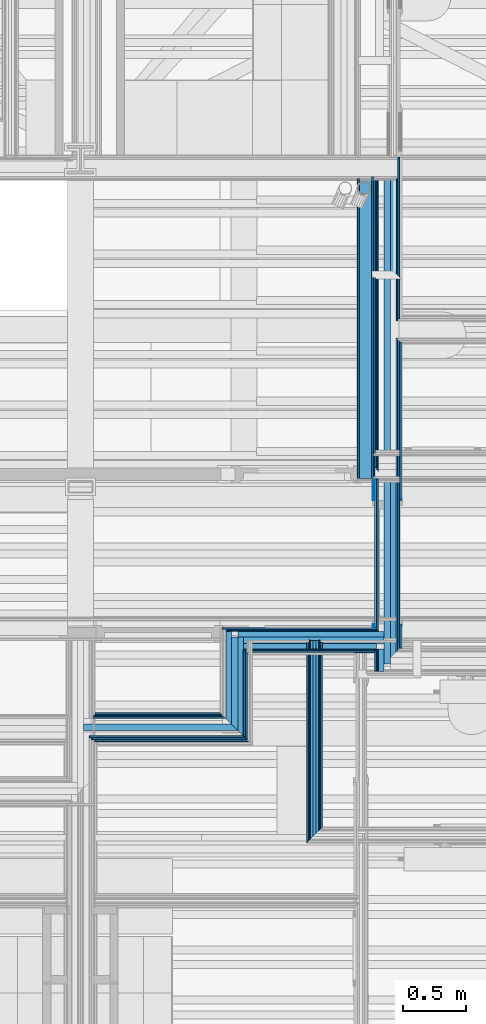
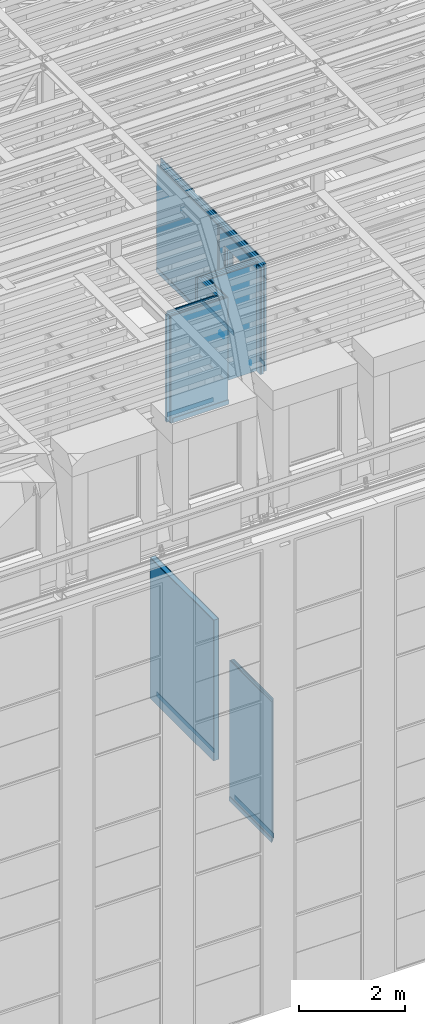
# One storey, part 36 of 183: 46 building element parts, 1 opening, 6 elements without a shape of their own.
"""IFC2X3 building model written with IfcOpenShell, lengths in metres."""

from ifc_helpers import new_model, entity, si_unit, converted_unit, derived_unit, money_unit, direction, frame, frame_2d, origin_with_axes, place, context, subcontext, project, spatial, polyline, rectangle, outline, extrude, material, type_object, element, aggregate, save


model = new_model("IFC2X3")

# Units and contexts
model_context = context("Model", 3, precision=1e-05, world=origin_with_axes(), true_north=direction((0.0, 1.0)))
body_context = subcontext(model_context, "Body", "Model", "MODEL_VIEW", scale=1.0)
ifc_project = project(units=[si_unit("LENGTHUNIT", "METRE"), si_unit("AREAUNIT", "SQUARE_METRE"), si_unit("VOLUMEUNIT", "CUBIC_METRE"), si_unit("ABSORBEDDOSEUNIT", "GRAY"), si_unit("AMOUNTOFSUBSTANCEUNIT", "MOLE"), si_unit("DOSEEQUIVALENTUNIT", "SIEVERT"), si_unit("ELECTRICCAPACITANCEUNIT", "FARAD"), si_unit("ELECTRICCHARGEUNIT", "COULOMB"), si_unit("ELECTRICCONDUCTANCEUNIT", "SIEMENS"), si_unit("ELECTRICCURRENTUNIT", "AMPERE"), si_unit("ELECTRICRESISTANCEUNIT", "OHM"), si_unit("ELECTRICVOLTAGEUNIT", "VOLT"), si_unit("ENERGYUNIT", "JOULE"), si_unit("FORCEUNIT", "NEWTON"), si_unit("FREQUENCYUNIT", "HERTZ"), si_unit("ILLUMINANCEUNIT", "LUX"), si_unit("INDUCTANCEUNIT", "HENRY"), si_unit("LUMINOUSFLUXUNIT", "LUMEN"), si_unit("LUMINOUSINTENSITYUNIT", "CANDELA"), si_unit("MAGNETICFLUXDENSITYUNIT", "TESLA"), si_unit("MAGNETICFLUXUNIT", "WEBER"), si_unit("MASSUNIT", "GRAM"), converted_unit("PLANEANGLEUNIT", "degree", entity("IfcReal", 0.0174532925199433), si_unit("PLANEANGLEUNIT", "RADIAN"), dimensions=[0, 0, 0, 0, 0, 0, 0]), si_unit("POWERUNIT", "WATT"), si_unit("PRESSUREUNIT", "PASCAL"), si_unit("RADIOACTIVITYUNIT", "BECQUEREL"), si_unit("SOLIDANGLEUNIT", "STERADIAN"), si_unit("THERMODYNAMICTEMPERATUREUNIT", "KELVIN"), si_unit("TIMEUNIT", "SECOND"), derived_unit("ACCELERATIONUNIT", [(si_unit("LENGTHUNIT", "METRE"), 1), (si_unit("TIMEUNIT", "SECOND"), -2)]), derived_unit("ANGULARVELOCITYUNIT", [(converted_unit("PLANEANGLEUNIT", "degree", entity("IfcReal", 0.0174532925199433), si_unit("PLANEANGLEUNIT", "RADIAN"), dimensions=[0, 0, 0, 0, 0, 0, 0]), 1), (si_unit("TIMEUNIT", "SECOND"), -1)]), derived_unit("CURVATUREUNIT", [(converted_unit("PLANEANGLEUNIT", "degree", entity("IfcReal", 0.0174532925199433), si_unit("PLANEANGLEUNIT", "RADIAN"), dimensions=[0, 0, 0, 0, 0, 0, 0]), 1), (si_unit("LENGTHUNIT", "METRE"), -1)]), derived_unit("DYNAMICVISCOSITYUNIT", [(si_unit("PRESSUREUNIT", "PASCAL"), 1), (si_unit("TIMEUNIT", "SECOND"), 1)]), derived_unit("HEATFLUXDENSITYUNIT", [(si_unit("POWERUNIT", "WATT"), 1), (si_unit("LENGTHUNIT", "METRE"), -2)]), derived_unit("HEATINGVALUEUNIT", [(si_unit("ENERGYUNIT", "JOULE"), 1), (si_unit("MASSUNIT", "GRAM"), -1)]), derived_unit("INTEGERCOUNTRATEUNIT", [(si_unit("TIMEUNIT", "SECOND"), -1)]), derived_unit("IONCONCENTRATIONUNIT", [(si_unit("MASSUNIT", "GRAM"), 1), (si_unit("VOLUMEUNIT", "CUBIC_METRE"), -1)]), derived_unit("ISOTHERMALMOISTURECAPACITYUNIT", [(si_unit("VOLUMEUNIT", "CUBIC_METRE"), 1), (si_unit("MASSUNIT", "GRAM"), -1)]), derived_unit("KINEMATICVISCOSITYUNIT", [(si_unit("AREAUNIT", "SQUARE_METRE"), 1), (si_unit("TIMEUNIT", "SECOND"), -1)]), derived_unit("LINEARFORCEUNIT", [(si_unit("FORCEUNIT", "NEWTON"), 1), (si_unit("LENGTHUNIT", "METRE"), -1)]), derived_unit("LINEARMOMENTUNIT", [(si_unit("FORCEUNIT", "NEWTON"), 1), (si_unit("LENGTHUNIT", "METRE"), -1)]), derived_unit("LINEARSTIFFNESSUNIT", [(si_unit("FORCEUNIT", "NEWTON"), 1), (si_unit("LENGTHUNIT", "METRE"), -1)]), derived_unit("LINEARVELOCITYUNIT", [(si_unit("LENGTHUNIT", "METRE"), 1), (si_unit("TIMEUNIT", "SECOND"), -1)]), derived_unit("LUMINOUSINTENSITYDISTRIBUTIONUNIT", [(si_unit("LUMINOUSINTENSITYUNIT", "CANDELA"), 1), (si_unit("LUMINOUSFLUXUNIT", "LUMEN"), -1)]), derived_unit("MASSDENSITYUNIT", [(si_unit("MASSUNIT", "GRAM"), 1), (si_unit("VOLUMEUNIT", "CUBIC_METRE"), -1)]), derived_unit("MASSFLOWRATEUNIT", [(si_unit("MASSUNIT", "GRAM"), 1), (si_unit("TIMEUNIT", "SECOND"), -1)]), derived_unit("MASSPERLENGTHUNIT", [(si_unit("MASSUNIT", "GRAM"), 1), (si_unit("LENGTHUNIT", "METRE"), -1)]), derived_unit("MODULUSOFELASTICITYUNIT", [(si_unit("FORCEUNIT", "NEWTON"), 1), (si_unit("AREAUNIT", "SQUARE_METRE"), -1)]), derived_unit("MODULUSOFLINEARSUBGRADEREACTIONUNIT", [(si_unit("FORCEUNIT", "NEWTON"), 1), (si_unit("LENGTHUNIT", "METRE"), -2)]), derived_unit("MODULUSOFROTATIONALSUBGRADEREACTIONUNIT", [(si_unit("FORCEUNIT", "NEWTON"), 1), (si_unit("LENGTHUNIT", "METRE"), 1)]), derived_unit("MODULUSOFSUBGRADEREACTIONUNIT", [(si_unit("FORCEUNIT", "NEWTON"), 1), (si_unit("VOLUMEUNIT", "CUBIC_METRE"), -1)]), derived_unit("MOISTUREDIFFUSIVITYUNIT", [(si_unit("VOLUMEUNIT", "CUBIC_METRE"), 1), (si_unit("TIMEUNIT", "SECOND"), -1)]), derived_unit("MOLECULARWEIGHTUNIT", [(si_unit("MASSUNIT", "GRAM"), 1), (si_unit("AMOUNTOFSUBSTANCEUNIT", "MOLE"), -1)]), derived_unit("PLANARFORCEUNIT", [(si_unit("FORCEUNIT", "NEWTON"), 1), (si_unit("LENGTHUNIT", "METRE"), -2)]), derived_unit("ROTATIONALFREQUENCYUNIT", [(si_unit("TIMEUNIT", "SECOND"), -1)]), derived_unit("ROTATIONALMASSUNIT", [(si_unit("MASSUNIT", "GRAM"), 1), (si_unit("LENGTHUNIT", "METRE"), 2)]), derived_unit("ROTATIONALSTIFFNESSUNIT", [(si_unit("FORCEUNIT", "NEWTON"), 1), (si_unit("LENGTHUNIT", "METRE"), 1), (converted_unit("PLANEANGLEUNIT", "degree", entity("IfcReal", 0.0174532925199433), si_unit("PLANEANGLEUNIT", "RADIAN"), dimensions=[0, 0, 0, 0, 0, 0, 0]), -1)]), derived_unit("SECTIONAREAINTEGRALUNIT", [(si_unit("LENGTHUNIT", "METRE"), 5)]), derived_unit("SECTIONMODULUSUNIT", [(si_unit("LENGTHUNIT", "METRE"), 3)]), derived_unit("SHEARMODULUSUNIT", [(si_unit("FORCEUNIT", "NEWTON"), 1), (si_unit("AREAUNIT", "SQUARE_METRE"), -1)]), derived_unit("SOUNDPOWERUNIT", [(si_unit("ENERGYUNIT", "JOULE"), 1), (si_unit("TIMEUNIT", "SECOND"), -1)]), derived_unit("SPECIFICHEATCAPACITYUNIT", [(si_unit("FORCEUNIT", "NEWTON"), 1), (si_unit("MASSUNIT", "GRAM"), -1), (si_unit("THERMODYNAMICTEMPERATUREUNIT", "KELVIN"), -1)]), derived_unit("TEMPERATUREGRADIENTUNIT", [(si_unit("THERMODYNAMICTEMPERATUREUNIT", "KELVIN"), 1), (si_unit("LENGTHUNIT", "METRE"), -1)]), derived_unit("THERMALADMITTANCEUNIT", [(si_unit("POWERUNIT", "WATT"), 1), (si_unit("AREAUNIT", "SQUARE_METRE"), -1), (si_unit("THERMODYNAMICTEMPERATUREUNIT", "KELVIN"), -1)]), derived_unit("THERMALCONDUCTANCEUNIT", [(si_unit("POWERUNIT", "WATT"), 1), (si_unit("LENGTHUNIT", "METRE"), -1), (si_unit("THERMODYNAMICTEMPERATUREUNIT", "KELVIN"), -1)]), derived_unit("THERMALEXPANSIONCOEFFICIENTUNIT", [(si_unit("THERMODYNAMICTEMPERATUREUNIT", "KELVIN"), -1)]), derived_unit("THERMALRESISTANCEUNIT", [(si_unit("AREAUNIT", "SQUARE_METRE"), 1), (si_unit("POWERUNIT", "WATT"), -1)]), derived_unit("THERMALTRANSMITTANCEUNIT", [(si_unit("POWERUNIT", "WATT"), 1), (si_unit("AREAUNIT", "SQUARE_METRE"), -1), (si_unit("THERMODYNAMICTEMPERATUREUNIT", "KELVIN"), -1)]), derived_unit("TORQUEUNIT", [(si_unit("FORCEUNIT", "NEWTON"), 1), (si_unit("LENGTHUNIT", "METRE"), 1)]), derived_unit("VAPORPERMEABILITYUNIT", [(si_unit("MASSUNIT", "GRAM"), 1), (si_unit("TIMEUNIT", "SECOND"), -1)]), derived_unit("VOLUMETRICFLOWRATEUNIT", [(si_unit("VOLUMEUNIT", "CUBIC_METRE"), 1), (si_unit("TIMEUNIT", "SECOND"), -1)]), derived_unit("WARPINGCONSTANTUNIT", [(si_unit("LENGTHUNIT", "METRE"), 6)]), derived_unit("WARPINGMOMENTUNIT", [(si_unit("FORCEUNIT", "NEWTON"), 1), (si_unit("LENGTHUNIT", "METRE"), 2)]), money_unit("GBP")], contexts=[model_context])

# Site, building, storey
site_placement = place(None, origin_with_axes())
site = spatial("IfcSite", under=ifc_project, at=site_placement, Name="Site", CompositionType="ELEMENT")
building_placement = place(site_placement, origin_with_axes())
building = spatial("IfcBuilding", under=site, at=building_placement, Name="Building01", CompositionType="ELEMENT")
storey_placement = place(building_placement, frame((0.0, 0.0, 5.15), z_axis=(0.0, 0.0, 1.0), x_axis=(1.0, 0.0, 0.0)))
storey = spatial("IfcBuildingStorey", under=building, at=storey_placement, Name="1F", CompositionType="ELEMENT", Elevation=5.15)

# Wall, building element parts
wall_type_1 = type_object("IfcWallType", Name="SHE_A-Walls_Type04a_BlockworkWall_130mm", PredefinedType="NOTDEFINED")
wall_1_placement = place(storey_placement, frame((15.715, 8.665, 0.0), z_axis=(0.0, 0.0, 1.0), x_axis=(0.0, -1.0, 0.0)))
wall_1 = element("IfcWall", 1, at=wall_1_placement, inside=storey, type_object=wall_type_1, Name="4A", ObjectType="SHE_A-Walls_Type04a_BlockworkWall_130mm")
ifc_material_1 = material(Name="A_BSUK_WallInternal_Finishes_Plasterboard")
placement_1 = place(wall_1_placement, origin_with_axes())
building_element_part_1 = element("IfcBuildingElementPart", 2, at=placement_1, material=ifc_material_1, Name="2", context=body_context, shape_type="SweptSolid", body=[
    extrude(rectangle(XDim=2.385, YDim=0.015, at=frame_2d((1.2075, -0.0075), x_axis=(-1.0, 0.0))), origin_with_axes(), (0.0, 0.0, 1.0), 3.24),
])
ifc_material_2 = material(Name="A_BSUK_WallsInternal_Block")
building_element_part_2 = element("IfcBuildingElementPart", 3, at=placement_1, material=ifc_material_2, Name="3", context=body_context, shape_type="SweptSolid", body=[
    extrude(rectangle(XDim=2.4, YDim=0.1, at=frame_2d((1.2, 0.05), x_axis=(-1.0, 0.0))), origin_with_axes(), (0.0, 0.0, 1.0), 3.24),
])
ifc_material_3 = material(Name="A_BSUK_WallInternal_Finishes_Plaster")
building_element_part_3 = element("IfcBuildingElementPart", 4, at=placement_1, material=ifc_material_3, Name="4", context=body_context, shape_type="SweptSolid", body=[
    extrude(rectangle(XDim=0.015, YDim=2.4, at=frame_2d((1.2, 0.1075), x_axis=(0.0, -1.0))), origin_with_axes(), (0.0, 0.0, 1.0), 3.24),
])
ifc_material_4 = material(Name="A_BSUK_Walls_Timber")
building_element_part_4 = element("IfcBuildingElementPart", 5, at=placement_1, material=ifc_material_4, Name="5", context=body_context, shape_type="SweptSolid", body=[
    extrude(outline(polyline([(2.19, 0.13), (0.03, 0.13), (0.03, 0.115), (2.205, 0.115), (2.19, 0.13)])), frame((0.0, 0.0, 0.015), z_axis=(0.0, 0.0, 1.0), x_axis=(1.0, 0.0, 0.0)), (0.0, 0.0, 1.0), 0.1),
])
aggregate(wall_1, [building_element_part_1, building_element_part_2, building_element_part_3, building_element_part_4])

wall_type_2 = type_object("IfcWallType", Name="SHE_A-Walls_Type05a_Partition_95mm_tall", PredefinedType="NOTDEFINED")
wall_2_placement = place(storey_placement, frame((15.3475, 3.42, 0.0), z_axis=(0.0, 0.0, 1.0), x_axis=(0.0, 1.0, 0.0)))
wall_2 = element("IfcWall", 6, at=wall_2_placement, inside=storey, type_object=wall_type_2, Name="5A", ObjectType="SHE_A-Walls_Type05a_Partition_95mm_tall")
placement_2 = place(wall_2_placement, origin_with_axes())
building_element_part_5 = element("IfcBuildingElementPart", 7, at=placement_2, material=ifc_material_4, Name="1", context=body_context, shape_type="SweptSolid", body=[
    extrude(outline(polyline([(1.545, -0.06), (0.06, -0.06), (0.075, -0.075), (1.545, -0.075), (1.545, -0.06)])), frame((0.0, 0.0, 0.015), z_axis=(0.0, 0.0, 1.0), x_axis=(1.0, 0.0, 0.0)), (0.0, 0.0, 1.0), 0.1),
])
building_element_part_6 = element("IfcBuildingElementPart", 8, at=placement_2, material=ifc_material_1, Name="2", context=body_context, shape_type="SweptSolid", body=[
    extrude(outline(polyline([(1.56, -0.048), (0.048, -0.048), (0.06, -0.06), (1.56, -0.06), (1.56, -0.048)])), origin_with_axes(), (0.0, 0.0, 1.0), 3.24),
])
ifc_material_5 = material(Name="Air Cavity")
building_element_part_7 = element("IfcBuildingElementPart", 9, at=placement_2, material=ifc_material_5, Name="3", context=body_context, shape_type="SweptSolid", body=[
    extrude(outline(polyline([(1.56, -0.025), (0.025, -0.025), (0.048, -0.048), (1.56, -0.048), (1.56, -0.025)])), origin_with_axes(), (0.0, 0.0, 1.0), 3.24),
])
ifc_material_6 = material(Name="A_BSUK_Insulation")
building_element_part_8 = element("IfcBuildingElementPart", 10, at=placement_2, material=ifc_material_6, Name="4", context=body_context, shape_type="SweptSolid", body=[
    extrude(outline(polyline([(1.56, 0.0), (0.0, 0.0), (0.025, -0.025), (1.56, -0.025), (1.56, 0.0)])), origin_with_axes(), (0.0, 0.0, 1.0), 3.24),
])
building_element_part_9 = element("IfcBuildingElementPart", 11, at=placement_2, material=ifc_material_5, Name="5", context=body_context, shape_type="SweptSolid", body=[
    extrude(outline(polyline([(1.56, 0.023), (-0.023, 0.023), (0.0, 0.0), (1.56, 0.0), (1.56, 0.023)])), origin_with_axes(), (0.0, 0.0, 1.0), 3.24),
])
building_element_part_10 = element("IfcBuildingElementPart", 12, at=placement_2, material=ifc_material_1, Name="6", context=body_context, shape_type="SweptSolid", body=[
    extrude(outline(polyline([(1.56, 0.035), (-0.035, 0.035), (-0.023, 0.023), (1.56, 0.023), (1.56, 0.035)])), origin_with_axes(), (0.0, 0.0, 1.0), 3.24),
])
building_element_part_11 = element("IfcBuildingElementPart", 13, at=placement_2, material=ifc_material_4, Name="7", context=body_context, shape_type="SweptSolid", body=[
    extrude(outline(polyline([(1.545, 0.05), (-0.05, 0.05), (-0.035, 0.035), (1.545, 0.035), (1.545, 0.05)])), frame((0.0, 0.0, 0.015), z_axis=(0.0, 0.0, 1.0), x_axis=(1.0, 0.0, 0.0)), (0.0, 0.0, 1.0), 0.1),
])
aggregate(wall_2, [building_element_part_5, building_element_part_6, building_element_part_7, building_element_part_8, building_element_part_9, building_element_part_10, building_element_part_11])

wall_type_3 = type_object("IfcWallType", Name="SHE_A-Walls_Type01d_Partywall_200mm_twin", PredefinedType="NOTDEFINED")
wall_3_placement = place(storey_placement, frame((14.7, 5.005, 9.78), z_axis=(0.0, 0.0, 1.0), x_axis=(0.0, -1.0, 0.0)))
wall_3 = element("IfcWall", 14, at=wall_3_placement, inside=storey, type_object=wall_type_3, Name="1D", ObjectType="SHE_A-Walls_Type01d_Partywall_200mm_twin")
placement_3 = place(wall_3_placement, origin_with_axes())
building_element_part_12 = element("IfcBuildingElementPart", 15, at=placement_3, material=ifc_material_5, Name="4", context=body_context, shape_type="SweptSolid", body=[
    extrude(outline(polyline([(0.690572, 0.0), (-0.06, 0.0), (-0.06, -0.045), (0.645572, -0.045), (0.690572, 0.0)])), origin_with_axes(), (0.0, 0.0, 1.0), 2.468),
])
building_element_part_13 = element("IfcBuildingElementPart", 16, at=placement_3, material=ifc_material_6, Name="5", context=body_context, shape_type="SweptSolid", body=[
    extrude(outline(polyline([(0.740572, 0.05), (0.0, 0.05), (0.0, 0.0), (0.690572, 0.0), (0.740572, 0.05)])), origin_with_axes(), (0.0, 0.0, 1.0), 2.468),
])
building_element_part_14 = element("IfcBuildingElementPart", 17, at=placement_3, material=ifc_material_5, Name="6", context=body_context, shape_type="SweptSolid", body=[
    extrude(outline(polyline([(0.785572, 0.095), (0.0, 0.095), (0.0, 0.05), (0.740572, 0.05), (0.785572, 0.095)])), origin_with_axes(), (0.0, 0.0, 1.0), 2.468),
])
building_element_part_15 = element("IfcBuildingElementPart", 18, at=placement_3, material=ifc_material_1, Name="7", context=body_context, shape_type="SweptSolid", body=[
    extrude(outline(polyline([(0.800572, 0.11), (0.11, 0.11), (0.11, 0.095), (0.785572, 0.095), (0.800572, 0.11)])), origin_with_axes(), (0.0, 0.0, 1.0), 2.468),
])
building_element_part_16 = element("IfcBuildingElementPart", 19, at=placement_3, material=ifc_material_1, Name="8", context=body_context, shape_type="SweptSolid", body=[
    extrude(outline(polyline([(0.815572, 0.125), (0.125, 0.125), (0.125, 0.11), (0.800572, 0.11), (0.815572, 0.125)])), origin_with_axes(), (0.0, 0.0, 1.0), 2.468),
])
aggregate(wall_3, [building_element_part_12, building_element_part_13, building_element_part_14, building_element_part_15, building_element_part_16])

wall_4_placement = place(storey_placement, frame((14.7, 4.314428, 9.78), z_axis=(0.0, 0.0, 1.0), x_axis=(-1.0, 0.0, 0.0)))
wall_4 = element("IfcWall", 20, at=wall_4_placement, inside=storey, type_object=wall_type_3, Name="1D", ObjectType="SHE_A-Walls_Type01d_Partywall_200mm_twin")
placement_4 = place(wall_4_placement, origin_with_axes())
building_element_part_17 = element("IfcBuildingElementPart", 21, at=placement_4, material=ifc_material_4, Name="1", context=body_context, shape_type="SweptSolid", body=[
    extrude(outline(polyline([(1.085, -0.075), (0.075, -0.075), (0.09, -0.09), (1.085, -0.09), (1.085, -0.075)])), frame((0.0, 0.0, 0.015), z_axis=(0.0, 0.0, 1.0), x_axis=(1.0, 0.0, 0.0)), (0.0, 0.0, 1.0), 0.1),
])
building_element_part_18 = element("IfcBuildingElementPart", 22, at=placement_4, material=ifc_material_1, Name="3", context=body_context, shape_type="SweptSolid", body=[
    extrude(outline(polyline([(1.1, -0.06), (0.06, -0.06), (0.075, -0.075), (1.1, -0.075), (1.1, -0.06)])), origin_with_axes(), (0.0, 0.0, 1.0), 2.468),
])
building_element_part_19 = element("IfcBuildingElementPart", 23, at=placement_4, material=ifc_material_1, Name="5", context=body_context, shape_type="SweptSolid", body=[
    extrude(outline(polyline([(1.115, -0.045), (0.045, -0.045), (0.06, -0.06), (1.115, -0.06), (1.115, -0.045)])), origin_with_axes(), (0.0, 0.0, 1.0), 2.468),
])
building_element_part_20 = element("IfcBuildingElementPart", 24, at=placement_4, material=ifc_material_6, Name="8", context=body_context, shape_type="SweptSolid", body=[
    extrude(outline(polyline([(1.175, 0.05), (-0.05, 0.05), (0.0, 0.0), (1.175, 0.0), (1.175, 0.05)])), origin_with_axes(), (0.0, 0.0, 1.0), 2.468),
])
building_element_part_21 = element("IfcBuildingElementPart", 25, at=placement_4, material=ifc_material_1, Name="11", context=body_context, shape_type="SweptSolid", body=[
    extrude(outline(polyline([(1.13, 0.11), (-0.11, 0.11), (-0.095, 0.095), (1.13, 0.095), (1.13, 0.11)])), origin_with_axes(), (0.0, 0.0, 1.0), 2.468),
])
building_element_part_22 = element("IfcBuildingElementPart", 26, at=placement_4, material=ifc_material_1, Name="13", context=body_context, shape_type="SweptSolid", body=[
    extrude(outline(polyline([(1.115, 0.125), (-0.125, 0.125), (-0.11, 0.11), (1.115, 0.11), (1.115, 0.125)])), origin_with_axes(), (0.0, 0.0, 1.0), 2.468),
])
building_element_part_23 = element("IfcBuildingElementPart", 27, at=placement_4, material=ifc_material_4, Name="15", context=body_context, shape_type="SweptSolid", body=[
    extrude(outline(polyline([(1.085, 0.14), (-0.14, 0.14), (-0.125, 0.125), (1.085, 0.125), (1.085, 0.14)])), frame((0.0, 0.0, 0.015), z_axis=(0.0, 0.0, 1.0), x_axis=(1.0, 0.0, 0.0)), (0.0, 0.0, 1.0), 0.1),
])
aggregate(wall_4, [building_element_part_17, building_element_part_18, building_element_part_19, building_element_part_20, building_element_part_21, building_element_part_22, building_element_part_23])

# Wall, opening, building element parts
wall_type_4 = type_object("IfcWallType", Name="SHE_A-Walls_Type03b_Firewall_200mm_twin", PredefinedType="NOTDEFINED")
wall_5_placement = place(storey_placement, frame((15.91344, 8.65, 9.78), z_axis=(0.0, 0.0, 1.0), x_axis=(0.0, -1.0, 0.0)))
wall_5 = element("IfcWall", 28, at=wall_5_placement, inside=storey, type_object=wall_type_4, Name="3B", ObjectType="SHE_A-Walls_Type03b_Firewall_200mm_twin")
opening_placement = place(wall_5_placement, frame((2.558, 0.14, 0.0), z_axis=(0.0, 0.0, 1.0), x_axis=(1.0, 0.0, 0.0)))
element("IfcOpeningElement", 29, at=opening_placement, cuts=wall_5, Name="Opening", ObjectType="Opening", context=body_context, shape_type="SweptSolid", body=[
    extrude(rectangle(XDim=2.142, YDim=0.984, at=frame_2d((0.492, 1.071), x_axis=(0.0, -1.0))), frame((0.0, 0.0, 0.0), z_axis=(0.0, -1.0, 0.0), x_axis=(1.0, 0.0, 0.0)), (0.0, 0.0, 1.0), 0.23),
])
placement_5 = place(wall_5_placement, origin_with_axes())
building_element_part_24 = element("IfcBuildingElementPart", 30, at=placement_5, material=ifc_material_4, Name="1", context=body_context, shape_type="SweptSolid", body=[
    extrude(rectangle(XDim=0.015, YDim=3.527, at=frame_2d((1.7785, -0.0825), x_axis=(0.0, -1.0))), frame((0.0, 0.0, 0.015), z_axis=(0.0, 0.0, 1.0), x_axis=(1.0, 0.0, 0.0)), (0.0, 0.0, 1.0), 0.1),
])
building_element_part_25 = element("IfcBuildingElementPart", 31, at=placement_5, material=ifc_material_4, Name="2", context=body_context, shape_type="SweptSolid", body=[
    extrude(rectangle(XDim=1.17, YDim=0.015, at=frame_2d((2.985, -0.0825), x_axis=(-1.0, 0.0))), frame((0.0, 0.0, 0.015), z_axis=(0.0, 0.0, 1.0), x_axis=(1.0, 0.0, 0.0)), (0.0, 0.0, 1.0), 0.1),
])
building_element_part_26 = element("IfcBuildingElementPart", 32, at=placement_5, material=ifc_material_1, Name="3", context=body_context, shape_type="SweptSolid", body=[
    extrude(rectangle(XDim=2.3, YDim=0.015, at=frame_2d((1.15, -0.0675), x_axis=(-1.0, 0.0))), origin_with_axes(), (0.0, 0.0, 1.0), 2.468),
])
building_element_part_27 = element("IfcBuildingElementPart", 33, at=placement_5, material=ifc_material_1, Name="4", context=body_context, shape_type="SweptSolid", body=[
    extrude(rectangle(XDim=1.183, YDim=0.015, at=frame_2d((2.9785, -0.0675), x_axis=(-1.0, 0.0))), origin_with_axes(), (0.0, 0.0, 1.0), 2.468),
])
building_element_part_28 = element("IfcBuildingElementPart", 34, at=placement_5, material=ifc_material_1, Name="5", context=body_context, shape_type="SweptSolid", body=[
    extrude(rectangle(XDim=0.163, YDim=0.015, at=frame_2d((3.8365, -0.0675), x_axis=(-1.0, 0.0))), origin_with_axes(), (0.0, 0.0, 1.0), 2.468),
])
building_element_part_29 = element("IfcBuildingElementPart", 35, at=placement_5, material=ifc_material_1, Name="6", context=body_context, shape_type="SweptSolid", body=[
    extrude(outline(polyline([(2.325, -0.045), (0.0, -0.045), (0.0, -0.06), (2.313, -0.06), (2.325, -0.045)])), origin_with_axes(), (0.0, 0.0, 1.0), 2.468),
])
building_element_part_30 = element("IfcBuildingElementPart", 36, at=placement_5, material=ifc_material_1, Name="7", context=body_context, shape_type="SweptSolid", body=[
    extrude(rectangle(XDim=1.198, YDim=0.015, at=frame_2d((2.986, -0.0525), x_axis=(-1.0, 0.0))), origin_with_axes(), (0.0, 0.0, 1.0), 2.468),
])
building_element_part_31 = element("IfcBuildingElementPart", 37, at=placement_5, material=ifc_material_1, Name="8", context=body_context, shape_type="SweptSolid", body=[
    extrude(rectangle(XDim=0.178, YDim=0.015, at=frame_2d((3.829, -0.0525), x_axis=(-1.0, 0.0))), origin_with_axes(), (0.0, 0.0, 1.0), 2.468),
])
building_element_part_32 = element("IfcBuildingElementPart", 38, at=placement_5, material=ifc_material_5, Name="9", context=body_context, shape_type="SweptSolid", body=[
    extrude(rectangle(XDim=0.178, YDim=0.045, at=frame_2d((3.829, -0.0225), x_axis=(-1.0, 0.0))), origin_with_axes(), (0.0, 0.0, 1.0), 2.468),
])
building_element_part_33 = element("IfcBuildingElementPart", 39, at=placement_5, material=ifc_material_6, Name="10", context=body_context, shape_type="SweptSolid", body=[
    extrude(rectangle(XDim=3.858, YDim=0.05, at=frame_2d((1.929, 0.025), x_axis=(-1.0, 0.0))), origin_with_axes(), (0.0, 0.0, 1.0), 2.468),
])
building_element_part_34 = element("IfcBuildingElementPart", 40, at=placement_5, material=ifc_material_5, Name="11", context=body_context, shape_type="SweptSolid", body=[
    extrude(rectangle(XDim=3.858, YDim=0.045, at=frame_2d((1.929, 0.0725), x_axis=(-1.0, 0.0))), origin_with_axes(), (0.0, 0.0, 1.0), 2.468),
])
building_element_part_35 = element("IfcBuildingElementPart", 41, at=placement_5, material=ifc_material_1, Name="12", context=body_context, shape_type="SweptSolid", body=[
    extrude(rectangle(XDim=1.130085, YDim=0.015, at=frame_2d((0.565042, 0.1025), x_axis=(-1.0, 0.0))), origin_with_axes(), (0.0, 0.0, 1.0), 2.468),
])
building_element_part_36 = element("IfcBuildingElementPart", 42, at=placement_5, material=ifc_material_1, Name="13", context=body_context, shape_type="SweptSolid", body=[
    extrude(outline(polyline([(3.748, 0.11), (1.270085, 0.11), (1.270085, 0.095), (3.763, 0.095), (3.748, 0.11)])), origin_with_axes(), (0.0, 0.0, 1.0), 2.468),
])
building_element_part_37 = element("IfcBuildingElementPart", 43, at=placement_5, material=ifc_material_1, Name="14", context=body_context, shape_type="SweptSolid", body=[
    extrude(rectangle(XDim=1.285085, YDim=0.015, at=frame_2d((0.472542, 0.1175), x_axis=(-1.0, 0.0))), origin_with_axes(), (0.0, 0.0, 1.0), 2.468),
])
building_element_part_38 = element("IfcBuildingElementPart", 44, at=placement_5, material=ifc_material_1, Name="15", context=body_context, shape_type="SweptSolid", body=[
    extrude(outline(polyline([(3.733, 0.125), (1.285085, 0.125), (1.285085, 0.11), (3.748, 0.11), (3.733, 0.125)])), origin_with_axes(), (0.0, 0.0, 1.0), 2.468),
])
building_element_part_39 = element("IfcBuildingElementPart", 45, at=placement_5, material=ifc_material_4, Name="16", context=body_context, shape_type="SweptSolid", body=[
    extrude(rectangle(XDim=2.432915, YDim=0.015, at=frame_2d((2.516542, 0.1325), x_axis=(-1.0, 0.0))), frame((0.0, 0.0, 0.015), z_axis=(0.0, 0.0, 1.0), x_axis=(1.0, 0.0, 0.0)), (0.0, 0.0, 1.0), 0.1),
])
aggregate(wall_5, [building_element_part_24, building_element_part_25, building_element_part_26, building_element_part_27, building_element_part_28, building_element_part_29, building_element_part_30, building_element_part_31, building_element_part_32, building_element_part_33, building_element_part_34, building_element_part_35, building_element_part_36, building_element_part_37, building_element_part_38, building_element_part_39])

# Wall, building element parts
wall_6_placement = place(storey_placement, frame((14.75, 4.955, 9.78), z_axis=(0.0, 0.0, 1.0), x_axis=(1.0, 0.0, 0.0)))
wall_6 = element("IfcWall", 46, at=wall_6_placement, inside=storey, type_object=wall_type_3, Name="1D", ObjectType="SHE_A-Walls_Type01d_Partywall_200mm_twin")
placement_6 = place(wall_6_placement, origin_with_axes())
building_element_part_40 = element("IfcBuildingElementPart", 47, at=placement_6, material=ifc_material_1, Name="2", context=body_context, shape_type="SweptSolid", body=[
    extrude(rectangle(XDim=1.02844, YDim=0.015, at=frame_2d((0.57422, -0.0675), x_axis=(-1.0, 0.0))), origin_with_axes(), (0.0, 0.0, 1.0), 2.468),
])
building_element_part_41 = element("IfcBuildingElementPart", 48, at=placement_6, material=ifc_material_1, Name="3", context=body_context, shape_type="SweptSolid", body=[
    extrude(rectangle(XDim=1.05844, YDim=0.015, at=frame_2d((0.57422, -0.0525), x_axis=(-1.0, 0.0))), origin_with_axes(), (0.0, 0.0, 1.0), 2.468),
])
building_element_part_42 = element("IfcBuildingElementPart", 49, at=placement_6, material=ifc_material_5, Name="4", context=body_context, shape_type="SweptSolid", body=[
    extrude(rectangle(XDim=1.05844, YDim=0.045, at=frame_2d((0.57422, -0.0225), x_axis=(-1.0, 0.0))), origin_with_axes(), (0.0, 0.0, 1.0), 2.468),
])
building_element_part_43 = element("IfcBuildingElementPart", 50, at=placement_6, material=ifc_material_6, Name="5", context=body_context, shape_type="SweptSolid", body=[
    extrude(rectangle(XDim=1.16344, YDim=0.05, at=frame_2d((0.58172, 0.025), x_axis=(-1.0, 0.0))), origin_with_axes(), (0.0, 0.0, 1.0), 2.468),
])
building_element_part_44 = element("IfcBuildingElementPart", 51, at=placement_6, material=ifc_material_5, Name="6", context=body_context, shape_type="SweptSolid", body=[
    extrude(rectangle(XDim=1.16344, YDim=0.045, at=frame_2d((0.58172, 0.0725), x_axis=(-1.0, 0.0))), origin_with_axes(), (0.0, 0.0, 1.0), 2.468),
])
building_element_part_45 = element("IfcBuildingElementPart", 52, at=placement_6, material=ifc_material_1, Name="7", context=body_context, shape_type="SweptSolid", body=[
    extrude(rectangle(XDim=1.21344, YDim=0.015, at=frame_2d((0.51172, 0.1025), x_axis=(-1.0, 0.0))), origin_with_axes(), (0.0, 0.0, 1.0), 2.468),
])
building_element_part_46 = element("IfcBuildingElementPart", 53, at=placement_6, material=ifc_material_1, Name="8", context=body_context, shape_type="SweptSolid", body=[
    extrude(rectangle(XDim=1.22844, YDim=0.015, at=frame_2d((0.48922, 0.1175), x_axis=(-1.0, 0.0))), origin_with_axes(), (0.0, 0.0, 1.0), 2.468),
])
aggregate(wall_6, [building_element_part_40, building_element_part_41, building_element_part_42, building_element_part_43, building_element_part_44, building_element_part_45, building_element_part_46])

save(model, "model.ifc")
